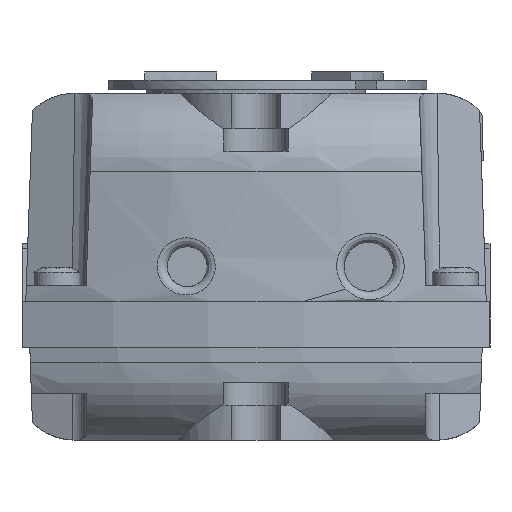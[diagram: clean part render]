
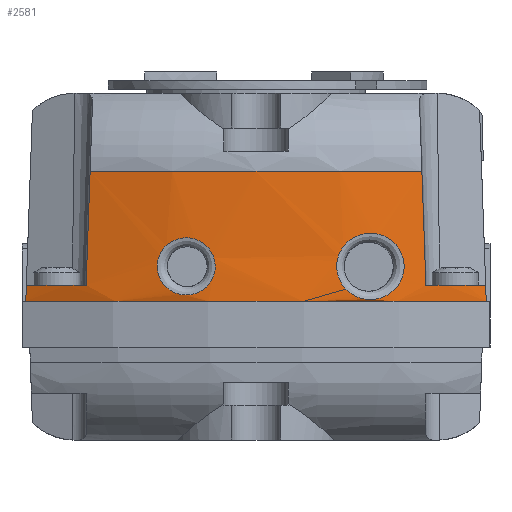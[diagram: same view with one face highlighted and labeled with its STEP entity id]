
A CAD part, left-side view. The second image highlights one B-rep face of the part: STEP entity #2581.
In plain terms, the highlighted conical face has half-angle 2 degrees and reference radius 99 mm.
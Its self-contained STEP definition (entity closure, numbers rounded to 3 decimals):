
#2042=CONICAL_SURFACE('',#7185,99.,2.);
#2433=B_SPLINE_CURVE_WITH_KNOTS('',3,(#9535,#9536,#9537,#9538),
 .UNSPECIFIED.,.F.,.F.,(4,4),(0.,1.),.UNSPECIFIED.);
#2444=B_SPLINE_CURVE_WITH_KNOTS('',3,(#9850,#9851,#9852,#9853),
 .UNSPECIFIED.,.F.,.F.,(4,4),(0.,1.),.UNSPECIFIED.);
#2455=B_SPLINE_CURVE_WITH_KNOTS('',3,(#10135,#10136,#10137,#10138,#10139,
#10140,#10141,#10142,#10143,#10144,#10145,#10146,#10147,#10148,#10149,#10150,
#10151,#10152,#10153,#10154,#10155,#10156,#10157,#10158,#10159),
 .UNSPECIFIED.,.T.,.F.,(1,3,3,3,3,3,3,3,3,3,1),(-0.125,0.,0.125,0.25,0.375,
0.5,0.625,0.75,0.875,1.,1.125),.UNSPECIFIED.);
#2456=B_SPLINE_CURVE_WITH_KNOTS('',3,(#10161,#10162,#10163,#10164,#10165,
#10166,#10167,#10168,#10169,#10170,#10171,#10172,#10173,#10174,#10175,#10176,
#10177,#10178,#10179,#10180,#10181,#10182,#10183,#10184,#10185),
 .UNSPECIFIED.,.T.,.F.,(1,3,3,3,3,3,3,3,3,3,1),(-0.125,0.,0.125,0.25,0.375,
0.5,0.625,0.75,0.875,1.,1.125),.UNSPECIFIED.);
#2457=B_SPLINE_CURVE_WITH_KNOTS('',3,(#10187,#10188,#10189,#10190),
 .UNSPECIFIED.,.F.,.F.,(4,4),(0.,1.),.UNSPECIFIED.);
#2458=B_SPLINE_CURVE_WITH_KNOTS('',3,(#10191,#10192,#10193,#10194),
 .UNSPECIFIED.,.F.,.F.,(4,4),(0.,1.),.UNSPECIFIED.);
#2581=ADVANCED_FACE('',(#3589,#3590,#3591),#2042,.T.);
#3589=FACE_BOUND('',#3774,.T.);
#3590=FACE_BOUND('',#3775,.T.);
#3591=FACE_BOUND('',#3776,.T.);
#3774=EDGE_LOOP('',(#4635));
#3775=EDGE_LOOP('',(#4636));
#3776=EDGE_LOOP('',(#4637,#4638,#4639,#4640,#4641,#4642,#4643,#4644));
#4635=ORIENTED_EDGE('',*,*,#6308,.T.);
#4636=ORIENTED_EDGE('',*,*,#6309,.T.);
#4637=ORIENTED_EDGE('',*,*,#6203,.F.);
#4638=ORIENTED_EDGE('',*,*,#6310,.T.);
#4639=ORIENTED_EDGE('',*,*,#6096,.T.);
#4640=ORIENTED_EDGE('',*,*,#6215,.T.);
#4641=ORIENTED_EDGE('',*,*,#6295,.F.);
#4642=ORIENTED_EDGE('',*,*,#6083,.T.);
#4643=ORIENTED_EDGE('',*,*,#6104,.T.);
#4644=ORIENTED_EDGE('',*,*,#6311,.T.);
#5590=VERTEX_POINT('',#9534);
#5591=VERTEX_POINT('',#9539);
#5600=VERTEX_POINT('',#9565);
#5601=VERTEX_POINT('',#9567);
#5607=VERTEX_POINT('',#9581);
#5674=VERTEX_POINT('',#9810);
#5675=VERTEX_POINT('',#9812);
#5684=VERTEX_POINT('',#9849);
#5734=VERTEX_POINT('',#10160);
#5735=VERTEX_POINT('',#10186);
#6083=EDGE_CURVE('',#5591,#5590,#2433,.T.);
#6096=EDGE_CURVE('',#5601,#5600,#6708,.T.);
#6104=EDGE_CURVE('',#5590,#5607,#6712,.T.);
#6203=EDGE_CURVE('',#5674,#5675,#6755,.T.);
#6215=EDGE_CURVE('',#5600,#5684,#2444,.T.);
#6295=EDGE_CURVE('',#5591,#5684,#6778,.T.);
#6308=EDGE_CURVE('',#5734,#5734,#2455,.T.);
#6309=EDGE_CURVE('',#5735,#5735,#2456,.T.);
#6310=EDGE_CURVE('',#5674,#5601,#2457,.T.);
#6311=EDGE_CURVE('',#5607,#5675,#2458,.T.);
#6708=CIRCLE('',#7026,98.902);
#6712=CIRCLE('',#7031,98.902);
#6755=CIRCLE('',#7112,98.213);
#6778=CIRCLE('',#7166,99.);
#7026=AXIS2_PLACEMENT_3D('',#9566,#7794,#7795);
#7031=AXIS2_PLACEMENT_3D('',#9582,#7808,#7809);
#7112=AXIS2_PLACEMENT_3D('',#9811,#8021,#8022);
#7166=AXIS2_PLACEMENT_3D('',#10064,#8182,#8183);
#7185=AXIS2_PLACEMENT_3D('',#10195,#8223,#8224);
#7794=DIRECTION('',(0.,0.,-1.));
#7795=DIRECTION('',(0.,1.,0.));
#7808=DIRECTION('',(0.,0.,-1.));
#7809=DIRECTION('',(0.,1.,0.));
#8021=DIRECTION('',(0.,0.,1.));
#8022=DIRECTION('',(0.,-1.,0.));
#8182=DIRECTION('',(0.,0.,-1.));
#8183=DIRECTION('',(0.,1.,0.));
#8223=DIRECTION('',(0.,0.,-1.));
#8224=DIRECTION('',(0.,-1.,0.));
#9534=CARTESIAN_POINT('',(-140.862,-39.751,-9.65));
#9535=CARTESIAN_POINT('',(-140.926,-39.849,-12.45));
#9536=CARTESIAN_POINT('',(-140.905,-39.817,-11.517));
#9537=CARTESIAN_POINT('',(-140.883,-39.784,-10.583));
#9538=CARTESIAN_POINT('',(-140.862,-39.751,-9.65));
#9539=CARTESIAN_POINT('',(-140.926,-39.849,-12.45));
#9565=CARTESIAN_POINT('',(-140.862,39.751,-9.65));
#9566=CARTESIAN_POINT('',(-50.3,0.,-9.65));
#9567=CARTESIAN_POINT('',(-144.731,29.4,-9.65));
#9581=CARTESIAN_POINT('',(-144.731,-29.4,-9.65));
#9582=CARTESIAN_POINT('',(-50.3,0.,-9.65));
#9810=CARTESIAN_POINT('',(-144.223,28.711,10.074));
#9811=CARTESIAN_POINT('',(-50.3,0.,10.074));
#9812=CARTESIAN_POINT('',(-144.223,-28.711,10.074));
#9849=CARTESIAN_POINT('',(-140.926,39.849,-12.45));
#9850=CARTESIAN_POINT('',(-140.862,39.751,-9.65));
#9851=CARTESIAN_POINT('',(-140.883,39.784,-10.583));
#9852=CARTESIAN_POINT('',(-140.905,39.817,-11.517));
#9853=CARTESIAN_POINT('',(-140.926,39.849,-12.45));
#10064=CARTESIAN_POINT('',(-50.3,0.,-12.45));
#10135=CARTESIAN_POINT('',(-147.996,-15.555,-10.345));
#10136=CARTESIAN_POINT('',(-148.126,-14.488,-9.232));
#10137=CARTESIAN_POINT('',(-148.151,-13.903,-7.682));
#10138=CARTESIAN_POINT('',(-148.088,-13.967,-6.16));
#10139=CARTESIAN_POINT('',(-148.025,-14.031,-4.639));
#10140=CARTESIAN_POINT('',(-147.873,-14.753,-3.144));
#10141=CARTESIAN_POINT('',(-147.653,-15.879,-2.138));
#10142=CARTESIAN_POINT('',(-147.434,-17.005,-1.132));
#10143=CARTESIAN_POINT('',(-147.142,-18.523,-0.592));
#10144=CARTESIAN_POINT('',(-146.83,-20.037,-0.652));
#10145=CARTESIAN_POINT('',(-146.518,-21.551,-0.713));
#10146=CARTESIAN_POINT('',(-146.196,-23.013,-1.364));
#10147=CARTESIAN_POINT('',(-145.972,-24.061,-2.466));
#10148=CARTESIAN_POINT('',(-145.748,-25.11,-3.568));
#10149=CARTESIAN_POINT('',(-145.641,-25.699,-5.117));
#10150=CARTESIAN_POINT('',(-145.714,-25.634,-6.641));
#10151=CARTESIAN_POINT('',(-145.786,-25.568,-8.165));
#10152=CARTESIAN_POINT('',(-146.038,-24.844,-9.651));
#10153=CARTESIAN_POINT('',(-146.349,-23.732,-10.648));
#10154=CARTESIAN_POINT('',(-146.659,-22.621,-11.645));
#10155=CARTESIAN_POINT('',(-147.024,-21.121,-12.192));
#10156=CARTESIAN_POINT('',(-147.327,-19.612,-12.145));
#10157=CARTESIAN_POINT('',(-147.63,-18.103,-12.097));
#10158=CARTESIAN_POINT('',(-147.867,-16.613,-11.449));
#10159=CARTESIAN_POINT('',(-147.996,-15.555,-10.345));
#10160=CARTESIAN_POINT('',(-147.996,-15.555,-10.345));
#10161=CARTESIAN_POINT('',(-148.001,15.46,-10.064));
#10162=CARTESIAN_POINT('',(-147.815,16.439,-9.189));
#10163=CARTESIAN_POINT('',(-147.662,17.043,-7.929));
#10164=CARTESIAN_POINT('',(-147.605,17.104,-6.625));
#10165=CARTESIAN_POINT('',(-147.548,17.165,-5.321));
#10166=CARTESIAN_POINT('',(-147.591,16.666,-3.987));
#10167=CARTESIAN_POINT('',(-147.702,15.774,-3.037));
#10168=CARTESIAN_POINT('',(-147.813,14.881,-2.086));
#10169=CARTESIAN_POINT('',(-147.983,13.608,-1.51));
#10170=CARTESIAN_POINT('',(-148.145,12.308,-1.453));
#10171=CARTESIAN_POINT('',(-148.306,11.008,-1.395));
#10172=CARTESIAN_POINT('',(-148.458,9.687,-1.857));
#10173=CARTESIAN_POINT('',(-148.575,8.709,-2.729));
#10174=CARTESIAN_POINT('',(-148.693,7.731,-3.602));
#10175=CARTESIAN_POINT('',(-148.778,7.122,-4.875));
#10176=CARTESIAN_POINT('',(-148.828,7.062,-6.176));
#10177=CARTESIAN_POINT('',(-148.878,7.003,-7.477));
#10178=CARTESIAN_POINT('',(-148.892,7.5,-8.809));
#10179=CARTESIAN_POINT('',(-148.849,8.395,-9.761));
#10180=CARTESIAN_POINT('',(-148.806,9.291,-10.713));
#10181=CARTESIAN_POINT('',(-148.702,10.571,-11.291));
#10182=CARTESIAN_POINT('',(-148.546,11.878,-11.344));
#10183=CARTESIAN_POINT('',(-148.39,13.185,-11.396));
#10184=CARTESIAN_POINT('',(-148.186,14.485,-10.935));
#10185=CARTESIAN_POINT('',(-148.001,15.46,-10.064));
#10186=CARTESIAN_POINT('',(-148.001,15.46,-10.064));
#10187=CARTESIAN_POINT('',(-144.223,28.711,10.074));
#10188=CARTESIAN_POINT('',(-144.393,28.941,3.499));
#10189=CARTESIAN_POINT('',(-144.562,29.17,-3.075));
#10190=CARTESIAN_POINT('',(-144.731,29.4,-9.65));
#10191=CARTESIAN_POINT('',(-144.731,-29.4,-9.65));
#10192=CARTESIAN_POINT('',(-144.562,-29.17,-3.075));
#10193=CARTESIAN_POINT('',(-144.393,-28.941,3.499));
#10194=CARTESIAN_POINT('',(-144.223,-28.711,10.074));
#10195=CARTESIAN_POINT('',(-50.3,0.,-12.45));
